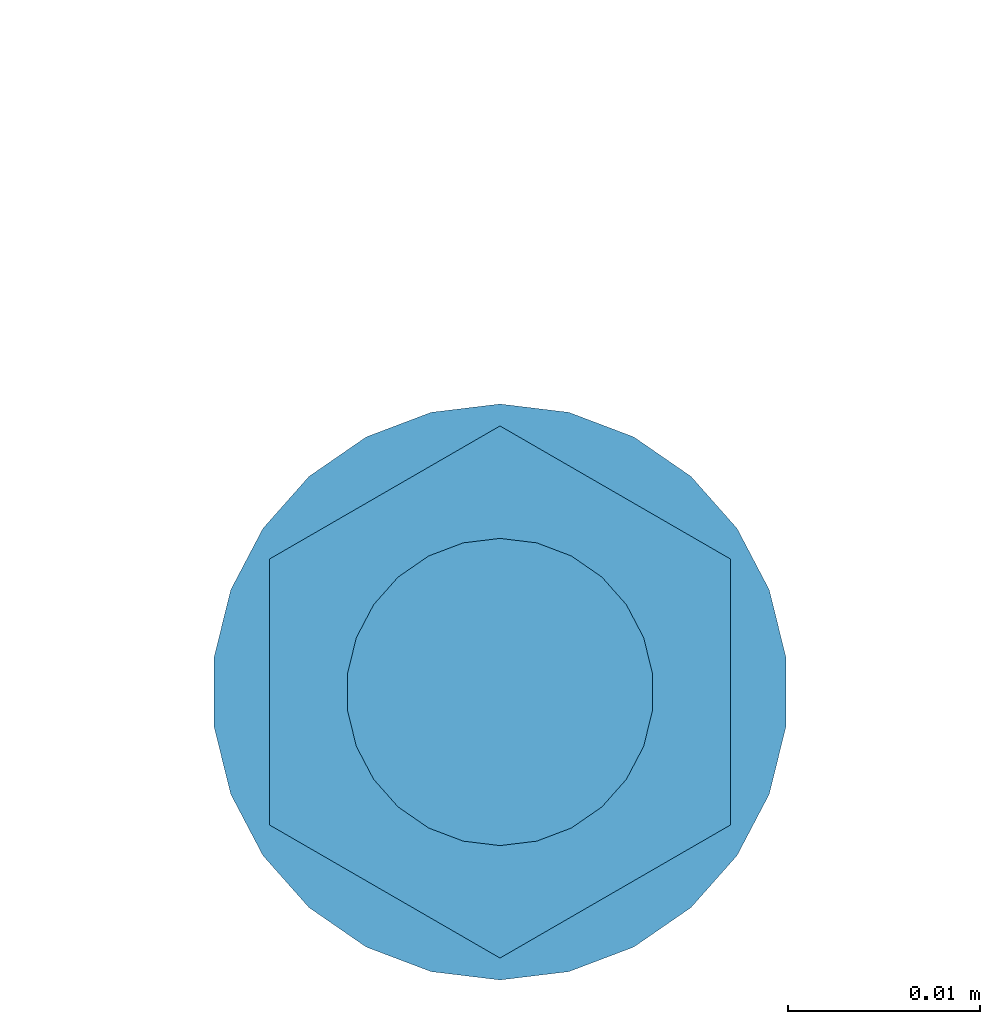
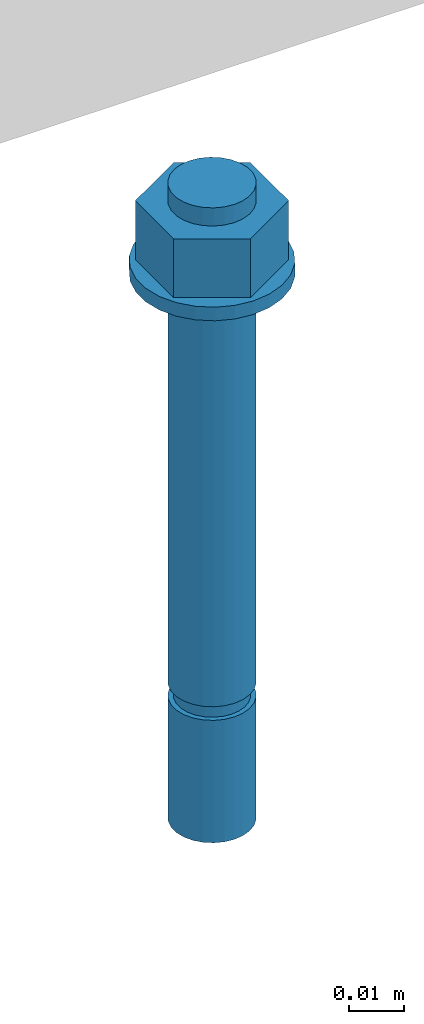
# One storey, part 1 of 2: 1 assembly.
"""IFC2X3 building model written with IfcOpenShell, lengths in metres."""

from ifc_helpers import new_model, entity, si_unit, converted_unit, derived_unit, direction, frame, frame_2d, origin, place, context, subcontext, project, spatial, polyline, circle_curve, parameter, trimmed, segment, composite_curve, circle, hollow_circle, outline, extrude, source, transform, mapped, material, type_object, type_shapes, element, save


model = new_model("IFC2X3")

# Units and contexts
model_context = context("Model", 3, precision=1e-05, world=origin(), true_north=direction((6.123031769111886e-17, 1.0)))
body_context = subcontext(model_context, "Body", "Model", "MODEL_VIEW")
ifc_project = project(units=[si_unit("LENGTHUNIT", "METRE"), si_unit("AREAUNIT", "SQUARE_METRE"), converted_unit("PLANEANGLEUNIT", "DEGREE", entity("IfcPlaneAngleMeasure", 0.017453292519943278), si_unit("PLANEANGLEUNIT", "RADIAN"), dimensions=[0, 0, 0, 0, 0, 0, 0]), si_unit("VOLUMEUNIT", "CUBIC_METRE"), derived_unit("THERMALTRANSMITTANCEUNIT", [(si_unit("MASSUNIT", "GRAM", prefix="KILO"), 1), (si_unit("THERMODYNAMICTEMPERATUREUNIT", "KELVIN"), -1), (si_unit("TIMEUNIT", "SECOND"), -3)]), derived_unit("USERDEFINED", [(si_unit("MASSUNIT", "GRAM", prefix="KILO"), 1), (si_unit("THERMODYNAMICTEMPERATUREUNIT", "KELVIN"), -1), (si_unit("TIMEUNIT", "SECOND"), -2)]), derived_unit("THERMALRESISTANCEUNIT", [(si_unit("MASSUNIT", "GRAM", prefix="KILO"), -1), (si_unit("TIMEUNIT", "SECOND"), 3), (si_unit("THERMODYNAMICTEMPERATUREUNIT", "KELVIN"), 1)]), derived_unit("MASSDENSITYUNIT", [(si_unit("MASSUNIT", "GRAM", prefix="KILO"), 1), (si_unit("LENGTHUNIT", "METRE"), -3)]), derived_unit("VAPORPERMEABILITYUNIT", [(si_unit("LENGTHUNIT", "METRE"), -1), (si_unit("TIMEUNIT", "SECOND"), 1)]), derived_unit("USERDEFINED", [(si_unit("MASSUNIT", "GRAM", prefix="KILO"), 1), (si_unit("TIMEUNIT", "SECOND"), -3), (si_unit("LENGTHUNIT", "METRE"), 3), (si_unit("ELECTRICCURRENTUNIT", "AMPERE"), -2)]), si_unit("PRESSUREUNIT", "PASCAL")], contexts=[model_context])

# Site, building, storey
site_placement = place(None, origin())
site = spatial("IfcSite", under=ifc_project, at=site_placement, Name="Default", CompositionType="ELEMENT")
building_placement = place(site_placement, origin())
building = spatial("IfcBuilding", under=site, at=building_placement, CompositionType="ELEMENT")
storey_placement = place(building_placement, frame((0.0, 0.0, -3.0)))
storey = spatial("IfcBuildingStorey", under=building, at=storey_placement, Name="B1", CompositionType="ELEMENT", Elevation=-3.0000000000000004)

# Assembly
ifc_material = material(Name="REC_Acero, S 275JR (Zincado)")
type_product = type_object("IfcTypeProduct", Name="REC-AEM16-140:AEM16-140", material=ifc_material)
shared_shape = source(origin(), body_context, "Body", "SweptSolid", [
    extrude(outline(polyline([(-0.006928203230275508, -0.011999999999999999), (0.006928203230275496, -0.012), (0.013856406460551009, 0.0), (0.006928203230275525, 0.011999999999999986), (-0.006928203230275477, 0.01200000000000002), (-0.013856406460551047, 0.0), (-0.006928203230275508, -0.011999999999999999)]), holes=[composite_curve([segment(trimmed(circle_curve(frame_2d((0.0, 0.0), x_axis=(0.4999999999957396, 0.8660254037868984)), 0.008), [parameter(3.053332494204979e-13)], [parameter(180.0)], True, "PARAMETER"), False, "CONTINUOUS"), segment(trimmed(circle_curve(frame_2d((0.0, 0.0), x_axis=(0.4999999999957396, 0.8660254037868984)), 0.008), [parameter(179.99999999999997)], [parameter(0.0)], True, "PARAMETER"), False, "CONTINUOUS")], self_intersect=False)]), frame((0.0, 0.0, 0.0029999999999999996), z_axis=(0.0, 0.0, 1.0), x_axis=(0.4999999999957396, -0.8660254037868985, 0.0)), (0.0, 0.0, 1.0), 0.013000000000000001),
    extrude(hollow_circle(Radius=0.015, WallThickness=0.006499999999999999, at=frame_2d((1.062573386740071e-19, -2.4233168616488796e-17), x_axis=(1.0, 0.0))), origin(), (0.0, 0.0, 1.0), 0.003),
    extrude(circle(Radius=0.008, at=frame_2d((1.3218592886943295e-19, -1.2924356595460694e-17), x_axis=(1.0, 0.0))), frame((0.0, 0.0, -0.09)), (0.0, 0.0, 1.0), 0.11),
    extrude(circle(Radius=0.008, at=frame_2d((1.3218592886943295e-19, -1.2924356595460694e-17), x_axis=(1.0, 0.0))), frame((0.0, 0.0, -0.12)), (0.0, 0.0, 1.0), 0.026999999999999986),
    extrude(circle(Radius=0.007, at=frame_2d((1.3218592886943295e-19, -1.1308812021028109e-17), x_axis=(1.0, 0.0))), frame((0.0, 0.0, -0.09300000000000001)), (0.0, 0.0, 1.0), 0.0030000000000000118),
])
type_shapes(type_product, [shared_shape])
assembly_placement = place(storey_placement, frame((7.287589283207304, 15.704530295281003, 3.008040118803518), z_axis=(0.0, 0.0, 1.0), x_axis=(0.0, 1.0, 0.0)))
element("IfcElementAssembly", 1, at=assembly_placement, inside=storey, type_object=type_product, material=ifc_material, Name="REC-AEM16-140:AEM16-140", ObjectType="REC-AEM16-140:AEM16-140", AssemblyPlace="NOTDEFINED", PredefinedType="NOTDEFINED", context=body_context, shape_type="MappedRepresentation", body=[
    mapped(shared_shape, transform((0.0, 0.0, 0.0), scale=1.0)),
])

save(model, "model.ifc")
